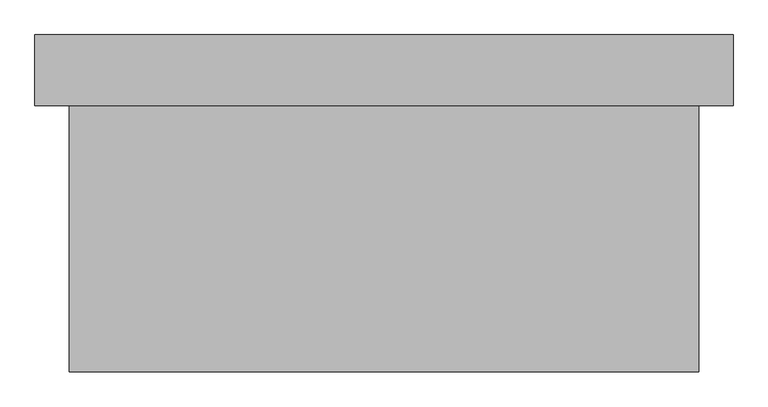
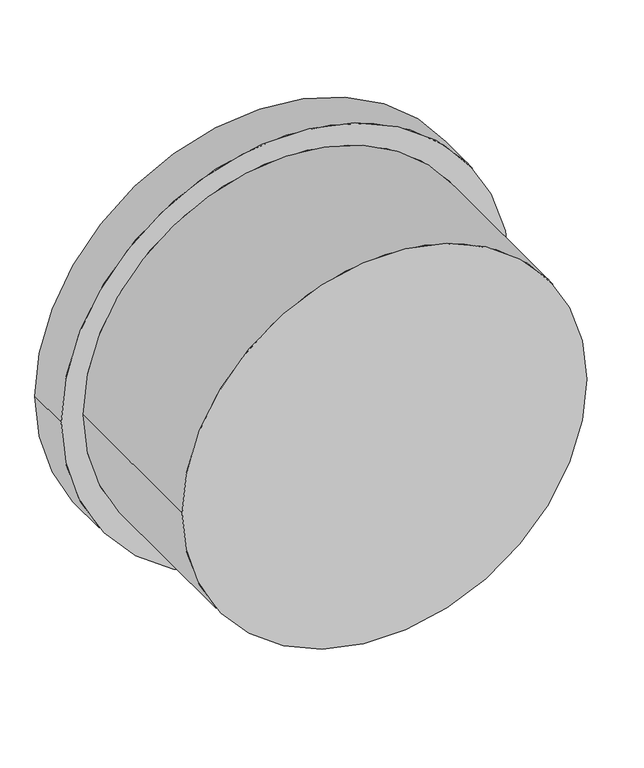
"""IFC4 building model written with IfcOpenShell, lengths in millimetres: proxy geometry, Ipart.TGPT.Large Riser-04."""

from ifc_helpers import new_model, si_unit, frame, origin, place, context, project, spatial, circle_curve, source, transform, mapped, element, save
from ifc_brep_helpers import plane_surface, cylinder_surface, advanced_brep


def generic_models_55b92837(model_context):
    return source(origin(), model_context, "Body", "AdvancedBrep", [
        advanced_brep(
        [(-1035.0, 790.0, 0.0), (-1035.0, 1000.0, 0.0), (1035.0, 1000.0, 0.0), (1035.0, 790.0, 0.0), (-933.0, 0.0, 0.0), (-933.0, 790.0, 0.0), (933.0, 790.0, 0.0), (933.0, 0.0, 0.0)],
        [
            (0, 1),
            (1, 2, circle_curve(frame((0.0, 1000.0, 0.0), z_axis=(0.0, -1.0, 0.0), x_axis=(-1.0, 0.0, 0.0)), 1035.0)),
            (2, 3),
            (3, 0, circle_curve(frame((0.0, 790.0, 0.0), z_axis=(0.0, 1.0, 0.0), x_axis=(-1.0, 0.0, 0.0)), 1035.0)),
            (4, 5),
            (5, 6, circle_curve(frame((0.0, 790.0, 0.0), z_axis=(0.0, -1.0, 0.0), x_axis=(-1.0, 0.0, 0.0)), 933.0)),
            (6, 7),
            (7, 4, circle_curve(frame((0.0, 0.0, 0.0), z_axis=(0.0, 1.0, 0.0), x_axis=(-1.0, 0.0, 0.0)), 933.0)),
            (7, 4, circle_curve(frame((0.0, 0.0, 0.0), z_axis=(0.0, -1.0, 0.0), x_axis=(-1.0, 0.0, 0.0)), 933.0)),
            (6, 5, circle_curve(frame((0.0, 790.0, 0.0), z_axis=(0.0, -1.0, 0.0), x_axis=(-1.0, 0.0, 0.0)), 933.0)),
            (3, 0, circle_curve(frame((0.0, 790.0, 0.0), z_axis=(0.0, -1.0, 0.0), x_axis=(-1.0, 0.0, 0.0)), 1035.0)),
            (2, 1, circle_curve(frame((0.0, 1000.0, 0.0), z_axis=(0.0, -1.0, 0.0), x_axis=(-1.0, 0.0, 0.0)), 1035.0)),
        ],
        [
            cylinder_surface(frame((0.0, 895.0, 0.0), z_axis=(0.0, 1.0, 0.0), x_axis=(-1.0, 0.0, 0.0)), 1035.0),
            cylinder_surface(frame((0.0, 395.0, 0.0), z_axis=(0.0, 1.0, 0.0), x_axis=(-1.0, 0.0, 0.0)), 933.0),
            plane_surface(frame((-933.0, 0.0, 0.0), z_axis=(0.0, -1.0, 0.0), x_axis=(0.0, 0.0, -1.0))),
            plane_surface(frame((-1035.0, 790.0, 0.0), z_axis=(0.0, -1.0, 0.0), x_axis=(0.0, 0.0, -1.0))),
            plane_surface(frame((-1025.0, 1000.0, 0.0), z_axis=(0.0, 1.0, 0.0), x_axis=(0.0, 0.0, 1.0))),
        ],
        [
            (0, [[1, 2, 3, 4]]),
            (1, [[5, 6, 7, 8]]),
            (2, [[9, -8]]),
            (1, [[-5, -9, -7, 10]]),
            (3, [[11, -4], [-10, -6]]),
            (0, [[-1, -11, -3, 12]]),
            (4, [[-12, -2]]),
        ],
    ),
    ])


if __name__ == "__main__":
    model = new_model("IFC4")
    model_context = context("Model", 3, world=origin())
    ifc_project = project(units=[si_unit("LENGTHUNIT", "METRE", prefix="MILLI")], contexts=[model_context])
    site = spatial("IfcSite", under=ifc_project)
    building = spatial("IfcBuilding", under=site)
    placement = place(None, origin())
    generic_models_shape = generic_models_55b92837(model_context)
    element("IfcBuildingElementProxy", 1, Name="Ipart.TGPT.Large Riser-04", ObjectType="Ipart.TGPT.Large Riser-04", at=placement, inside=building, context=model_context, shape_type="MappedRepresentation", body=[
        mapped(generic_models_shape, transform((0.0, 0.0, 0.0), x_axis=(1.0, 0.0, 0.0), y_axis=(0.0, 1.0, 0.0), z_axis=(0.0, 0.0, 1.0))),
    ])
    save(model, "model.ifc")
